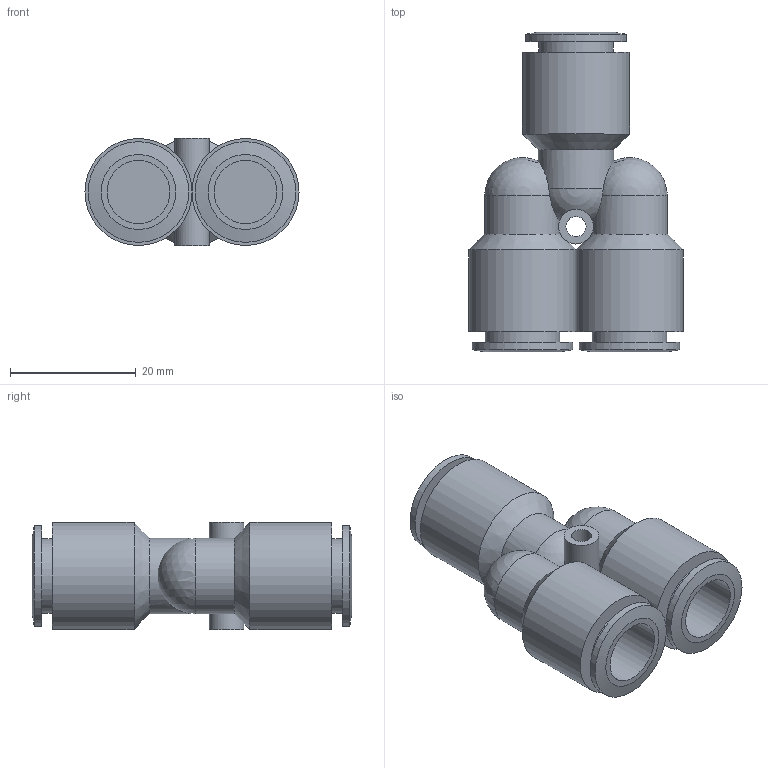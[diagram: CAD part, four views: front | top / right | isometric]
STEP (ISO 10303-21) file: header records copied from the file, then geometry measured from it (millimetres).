
FILE_DESCRIPTION((''),'2;1');
FILE_NAME('C:\Documents and Settings\rivolro1\Documenti\copia di Raccordi\PLASTICA\T23XXXX\T231000.stp','2007-11-02T14:44:47',('Rivolro1'),(''),'Autodesk Inventor 2008','Autodesk Inventor 2008','');
FILE_SCHEMA(('AUTOMOTIVE_DESIGN { 1 0 10303 214 1 1 1 1 }'));
Length unit declared in the file: millimetre
Products named in the file (1): T231000
Bounding box: 34 x 50.8 x 17 mm (x, y, z)
Volume: 11123 mm3; surface area: 7093.4 mm2
Topology: 1 solids, 1 shells, 41 faces, 99 edges, 60 vertices
Faces by surface type: cylinder 16, plane 14, cone 6, sphere 4, bspline 1
Full cylindrical faces by diameter (mm): 5.5 x1, 10 x3, 11.9 x3, 12 x3, 16 x3, 17 x3
Entity records: 1407 total; most frequent: CARTESIAN_POINT 539, DIRECTION 180, ORIENTED_EDGE 124, AXIS2_PLACEMENT_3D 89, EDGE_LOOP 78, EDGE_CURVE 62, VERTEX_POINT 52, CIRCLE 48
